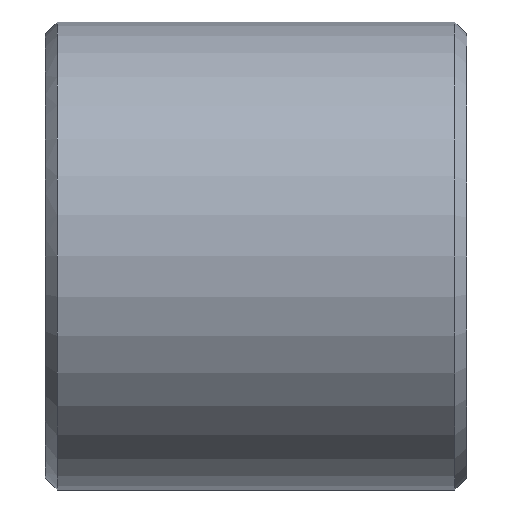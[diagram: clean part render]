
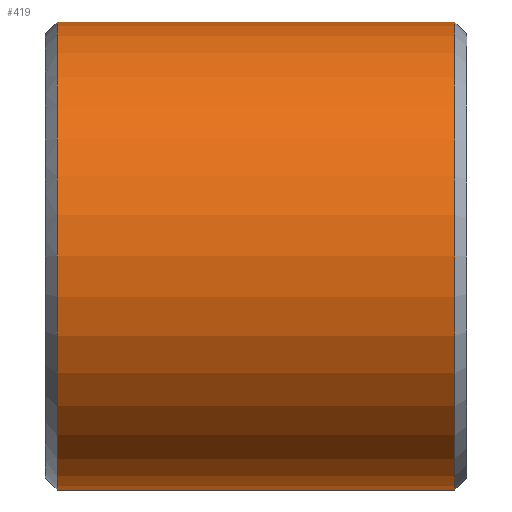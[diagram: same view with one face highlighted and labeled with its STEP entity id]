
A CAD part, front view. The second image highlights one B-rep face of the part: STEP entity #419.
In plain terms, the highlighted cylindrical face has radius 20 mm (diameter 40 mm), a partial arc.
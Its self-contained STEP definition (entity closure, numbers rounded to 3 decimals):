
#231=CARTESIAN_POINT('Vertex',(1.,0.,-20.)) ;
#238=CARTESIAN_POINT('Vertex',(1.,0.,20.)) ;
#267=CARTESIAN_POINT('Axis2P3D Location',(1.,0.,0.)) ;
#271=CARTESIAN_POINT('Vertex',(1.,-20.,0.)) ;
#274=CARTESIAN_POINT('Axis2P3D Location',(1.,0.,0.)) ;
#359=CARTESIAN_POINT('Line Origine',(36.,0.,20.)) ;
#363=CARTESIAN_POINT('Vertex',(35.,0.,20.)) ;
#377=CARTESIAN_POINT('Vertex',(35.,0.,-20.)) ;
#380=CARTESIAN_POINT('Line Origine',(36.,0.,-20.)) ;
#394=CARTESIAN_POINT('Axis2P3D Location',(36.,0.,0.)) ;
#399=CARTESIAN_POINT('Axis2P3D Location',(35.,0.,0.)) ;
#403=CARTESIAN_POINT('Vertex',(35.,-20.,0.)) ;
#406=CARTESIAN_POINT('Axis2P3D Location',(35.,0.,0.)) ;
#268=DIRECTION('Axis2P3D Direction',(1.,0.,-0.)) ;
#275=DIRECTION('Axis2P3D Direction',(1.,0.,-0.)) ;
#360=DIRECTION('Vector Direction',(-1.,0.,0.)) ;
#381=DIRECTION('Vector Direction',(-1.,0.,0.)) ;
#395=DIRECTION('Axis2P3D Direction',(-1.,-0.,-0.)) ;
#396=DIRECTION('Axis2P3D XDirection',(0.,0.,-1.)) ;
#400=DIRECTION('Axis2P3D Direction',(-1.,-0.,-0.)) ;
#407=DIRECTION('Axis2P3D Direction',(-1.,-0.,-0.)) ;
#269=AXIS2_PLACEMENT_3D('Circle Axis2P3D',#267,#268,$) ;
#276=AXIS2_PLACEMENT_3D('Circle Axis2P3D',#274,#275,$) ;
#397=AXIS2_PLACEMENT_3D('Cylinder Axis2P3D',#394,#395,#396) ;
#401=AXIS2_PLACEMENT_3D('Circle Axis2P3D',#399,#400,$) ;
#408=AXIS2_PLACEMENT_3D('Circle Axis2P3D',#406,#407,$) ;
#412=ORIENTED_EDGE('',*,*,#384,.T.) ;
#413=ORIENTED_EDGE('',*,*,#405,.F.) ;
#414=ORIENTED_EDGE('',*,*,#410,.F.) ;
#415=ORIENTED_EDGE('',*,*,#365,.T.) ;
#416=ORIENTED_EDGE('',*,*,#278,.T.) ;
#417=ORIENTED_EDGE('',*,*,#273,.T.) ;
#361=VECTOR('Line Direction',#360,1.) ;
#382=VECTOR('Line Direction',#381,1.) ;
#419=ADVANCED_FACE('352-32X36',(#418),#398,.T.) ;
#270=CIRCLE('generated circle',#269,20.) ;
#277=CIRCLE('generated circle',#276,20.) ;
#402=CIRCLE('generated circle',#401,20.) ;
#409=CIRCLE('generated circle',#408,20.) ;
#398=CYLINDRICAL_SURFACE('generated cylinder',#397,20.) ;
#273=EDGE_CURVE('',#272,#232,#270,.T.) ;
#278=EDGE_CURVE('',#239,#272,#277,.T.) ;
#365=EDGE_CURVE('',#364,#239,#362,.T.) ;
#384=EDGE_CURVE('',#232,#378,#383,.F.) ;
#405=EDGE_CURVE('',#404,#378,#402,.F.) ;
#410=EDGE_CURVE('',#364,#404,#409,.F.) ;
#411=EDGE_LOOP('',(#412,#413,#414,#415,#416,#417)) ;
#418=FACE_OUTER_BOUND('',#411,.T.) ;
#362=LINE('Line',#359,#361) ;
#383=LINE('Line',#380,#382) ;
#232=VERTEX_POINT('',#231) ;
#239=VERTEX_POINT('',#238) ;
#272=VERTEX_POINT('',#271) ;
#364=VERTEX_POINT('',#363) ;
#378=VERTEX_POINT('',#377) ;
#404=VERTEX_POINT('',#403) ;
